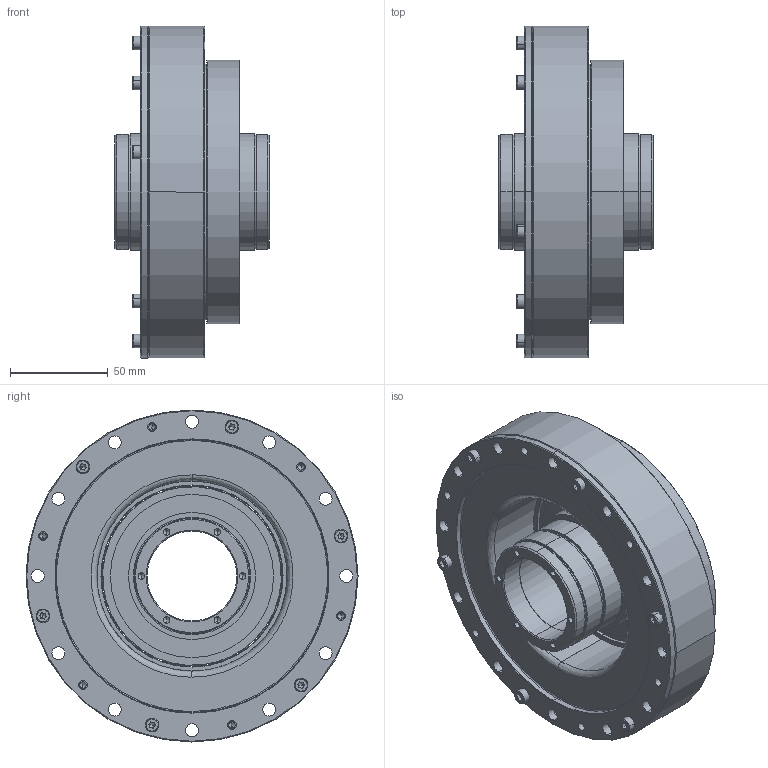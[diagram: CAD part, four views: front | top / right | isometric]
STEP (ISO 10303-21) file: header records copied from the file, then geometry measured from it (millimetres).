
FILE_DESCRIPTION (( 'STEP AP203' ), '1' );
FILE_NAME ('LHS-40-XXX-C-III-ST.step', '2025-01-07T06:46:13', ( '' ), ( '' ), 'SwSTEP 2.0', 'SolidWorks 2023', '' );
FILE_SCHEMA (( 'CONFIG_CONTROL_DESIGN' ));
Length unit declared in the file: metre
Products named in the file (1): LHS-40-XXX-C-III-ST
Bounding box: 79 x 170 x 170 mm (x, y, z)
Volume: 635452.1 mm3; surface area: 285264 mm2
Topology: 43 solids, 43 shells, 972 faces, 2343 edges, 1366 vertices
Faces by surface type: cylinder 415, plane 255, cone 172, bspline 130
Entity records: 31637 total; most frequent: CARTESIAN_POINT 9402, DIRECTION 4971, ORIENTED_EDGE 4310, EDGE_CURVE 2155, AXIS2_PLACEMENT_3D 2049, VERTEX_POINT 1366, EDGE_LOOP 1209, CIRCLE 1206
